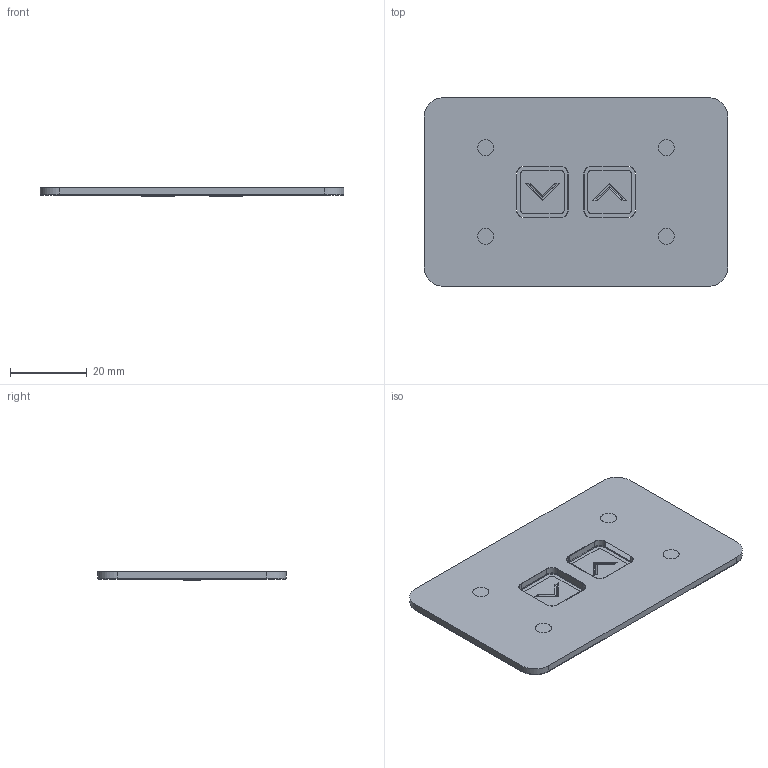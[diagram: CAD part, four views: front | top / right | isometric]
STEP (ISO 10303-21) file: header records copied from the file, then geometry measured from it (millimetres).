
FILE_DESCRIPTION (( 'STEP AP214' ), '1' );
FILE_NAME ('TFH7.STEP', '2015-06-12T06:59:11', ( '' ), ( '' ), 'SwSTEP 2.0', 'SolidWorks 2010', '' );
FILE_SCHEMA (( 'AUTOMOTIVE_DESIGN' ));
Length unit declared in the file: millimetre
Products named in the file (1): TFH7
Bounding box: 79 x 49 x 2.3 mm (x, y, z)
Surface area: 7971.8 mm2 (no closed solid volume)
Topology: 0 solids, 5 shells, 74 faces, 242 edges, 168 vertices
Faces by surface type: cylinder 44, plane 18, torus 12
Entity records: 3503 total; most frequent: CARTESIAN_POINT 521, DIRECTION 480, ORIENTED_EDGE 392, EDGE_CURVE 242, AXIS2_PLACEMENT_3D 175, VERTEX_POINT 168, VECTOR 130, LINE 130
